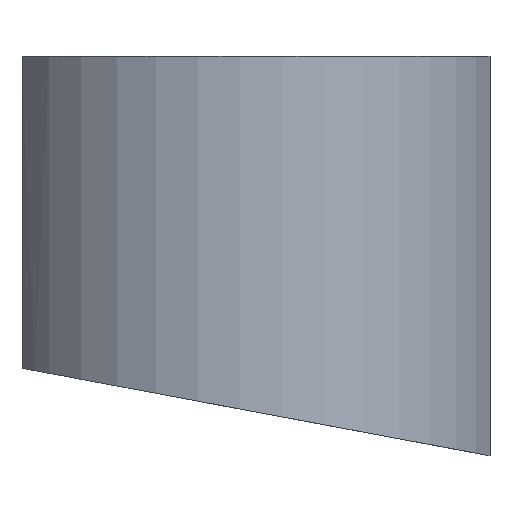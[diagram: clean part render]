
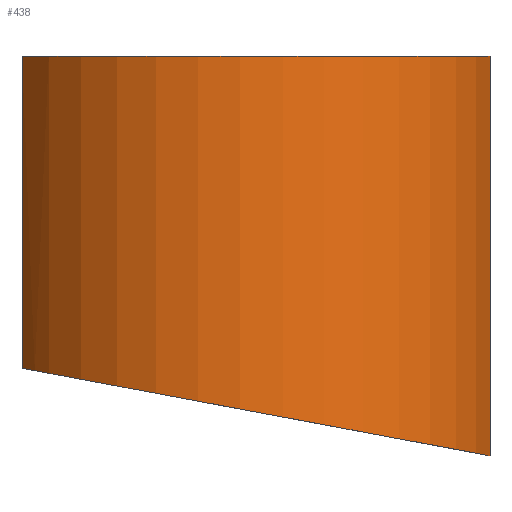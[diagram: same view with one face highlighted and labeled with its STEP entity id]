
A CAD part, left-side view. The second image highlights one B-rep face of the part: STEP entity #438.
In plain terms, the highlighted cylindrical face has radius 13.754 mm (diameter 27.507 mm), a partial arc.
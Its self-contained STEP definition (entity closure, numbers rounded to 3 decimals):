
#26=ELLIPSE('',#501,13.993,13.754);
#35=CYLINDRICAL_SURFACE('',#500,13.754);
#63=FACE_OUTER_BOUND('',#93,.T.);
#93=EDGE_LOOP('',(#386,#387,#388,#389));
#120=LINE('',#730,#156);
#128=LINE('',#752,#164);
#156=VECTOR('',#598,10.);
#164=VECTOR('',#620,10.);
#175=CIRCLE('',#469,13.754);
#193=VERTEX_POINT('',#676);
#196=VERTEX_POINT('',#681);
#210=VERTEX_POINT('',#729);
#217=VERTEX_POINT('',#751);
#239=EDGE_CURVE('',#193,#196,#175,.T.);
#262=EDGE_CURVE('',#193,#210,#120,.T.);
#273=EDGE_CURVE('',#217,#196,#128,.T.);
#279=EDGE_CURVE('',#210,#217,#26,.T.);
#386=ORIENTED_EDGE('',*,*,#273,.F.);
#387=ORIENTED_EDGE('',*,*,#279,.F.);
#388=ORIENTED_EDGE('',*,*,#262,.F.);
#389=ORIENTED_EDGE('',*,*,#239,.T.);
#438=ADVANCED_FACE('',(#63),#35,.T.);
#469=AXIS2_PLACEMENT_3D('',#683,#545,#546);
#500=AXIS2_PLACEMENT_3D('',#762,#632,#633);
#501=AXIS2_PLACEMENT_3D('',#763,#634,#635);
#545=DIRECTION('center_axis',(0.,0.,-1.));
#546=DIRECTION('ref_axis',(-0.56,0.829,0.));
#598=DIRECTION('',(0.,0.,-1.));
#620=DIRECTION('',(0.,0.,1.));
#632=DIRECTION('center_axis',(0.,0.,-1.));
#633=DIRECTION('ref_axis',(-0.56,0.829,0.));
#634=DIRECTION('center_axis',(0.,0.184,-0.983));
#635=DIRECTION('ref_axis',(0.,0.983,0.184));
#676=CARTESIAN_POINT('',(1.377,-24.896,15.5));
#681=CARTESIAN_POINT('',(-3.,-0.15,15.5));
#683=CARTESIAN_POINT('Origin',(4.696,-11.549,15.5));
#729=CARTESIAN_POINT('',(1.377,-24.896,-5.631));
#730=CARTESIAN_POINT('',(1.377,-24.896,15.));
#751=CARTESIAN_POINT('',(-3.,-0.15,-1.));
#752=CARTESIAN_POINT('',(-3.,-0.15,15.));
#762=CARTESIAN_POINT('Origin',(4.696,-11.549,15.));
#763=CARTESIAN_POINT('Origin',(4.696,-11.549,-3.133));
